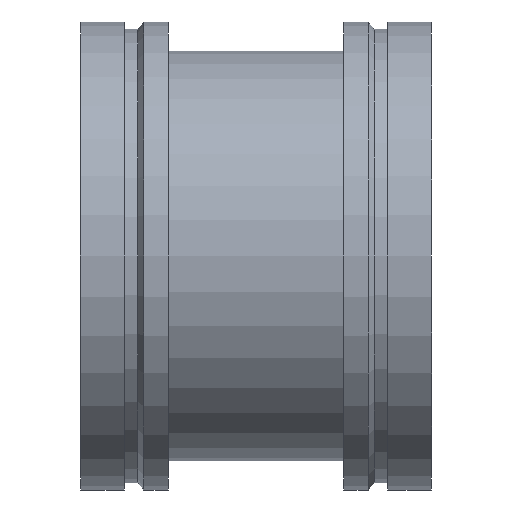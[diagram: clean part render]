
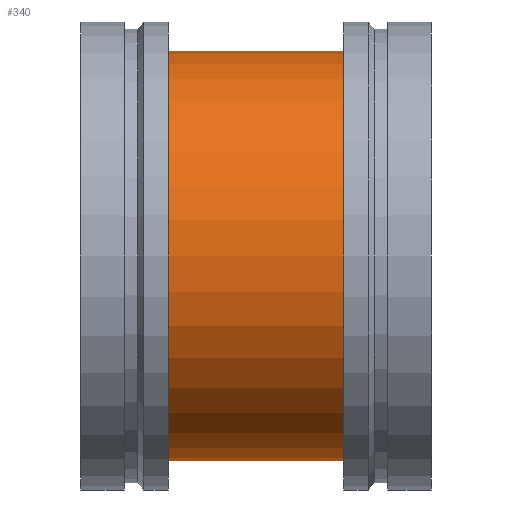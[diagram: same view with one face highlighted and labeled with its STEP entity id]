
A CAD part, front view. The second image highlights one B-rep face of the part: STEP entity #340.
In plain terms, the highlighted cylindrical face has radius 177.8 mm (diameter 355.6 mm), a full revolution.
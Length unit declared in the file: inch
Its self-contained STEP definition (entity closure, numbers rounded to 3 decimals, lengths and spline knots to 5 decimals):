
#51=LINE('',#613,#61);
#61=VECTOR('',#488,7.);
#70=CYLINDRICAL_SURFACE('',#392,7.);
#88=FACE_OUTER_BOUND('',#107,.T.);
#107=EDGE_LOOP('',(#261,#262,#263,#264,#265,#266));
#133=CIRCLE('',#390,7.);
#134=CIRCLE('',#391,7.);
#135=CIRCLE('',#393,7.);
#136=CIRCLE('',#394,7.);
#165=VERTEX_POINT('',#604);
#166=VERTEX_POINT('',#605);
#167=VERTEX_POINT('',#609);
#168=VERTEX_POINT('',#610);
#201=EDGE_CURVE('',#165,#166,#133,.T.);
#202=EDGE_CURVE('',#166,#165,#134,.T.);
#203=EDGE_CURVE('',#167,#168,#135,.T.);
#204=EDGE_CURVE('',#168,#167,#136,.T.);
#205=EDGE_CURVE('',#168,#166,#51,.T.);
#261=ORIENTED_EDGE('',*,*,#203,.F.);
#262=ORIENTED_EDGE('',*,*,#204,.F.);
#263=ORIENTED_EDGE('',*,*,#205,.T.);
#264=ORIENTED_EDGE('',*,*,#202,.T.);
#265=ORIENTED_EDGE('',*,*,#201,.T.);
#266=ORIENTED_EDGE('',*,*,#205,.F.);
#340=ADVANCED_FACE('',(#88),#70,.T.);
#390=AXIS2_PLACEMENT_3D('',#606,#478,#479);
#391=AXIS2_PLACEMENT_3D('',#607,#480,#481);
#392=AXIS2_PLACEMENT_3D('',#608,#482,#483);
#393=AXIS2_PLACEMENT_3D('',#611,#484,#485);
#394=AXIS2_PLACEMENT_3D('',#612,#486,#487);
#478=DIRECTION('center_axis',(1.,0.,0.));
#479=DIRECTION('ref_axis',(0.,0.,-1.));
#480=DIRECTION('center_axis',(1.,0.,0.));
#481=DIRECTION('ref_axis',(0.,0.,-1.));
#482=DIRECTION('center_axis',(1.,0.,0.));
#483=DIRECTION('ref_axis',(0.,1.,0.));
#484=DIRECTION('center_axis',(1.,0.,0.));
#485=DIRECTION('ref_axis',(0.,0.,-1.));
#486=DIRECTION('center_axis',(1.,0.,0.));
#487=DIRECTION('ref_axis',(0.,0.,-1.));
#488=DIRECTION('',(-1.,0.,0.));
#604=CARTESIAN_POINT('',(3.,7.,0.));
#605=CARTESIAN_POINT('',(3.,-7.,0.));
#606=CARTESIAN_POINT('Origin',(3.,0.,0.));
#607=CARTESIAN_POINT('Origin',(3.,0.,0.));
#608=CARTESIAN_POINT('Origin',(6.,0.,0.));
#609=CARTESIAN_POINT('',(9.,7.,0.));
#610=CARTESIAN_POINT('',(9.,-7.,0.));
#611=CARTESIAN_POINT('Origin',(9.,0.,0.));
#612=CARTESIAN_POINT('Origin',(9.,0.,0.));
#613=CARTESIAN_POINT('',(6.,-7.,0.));
